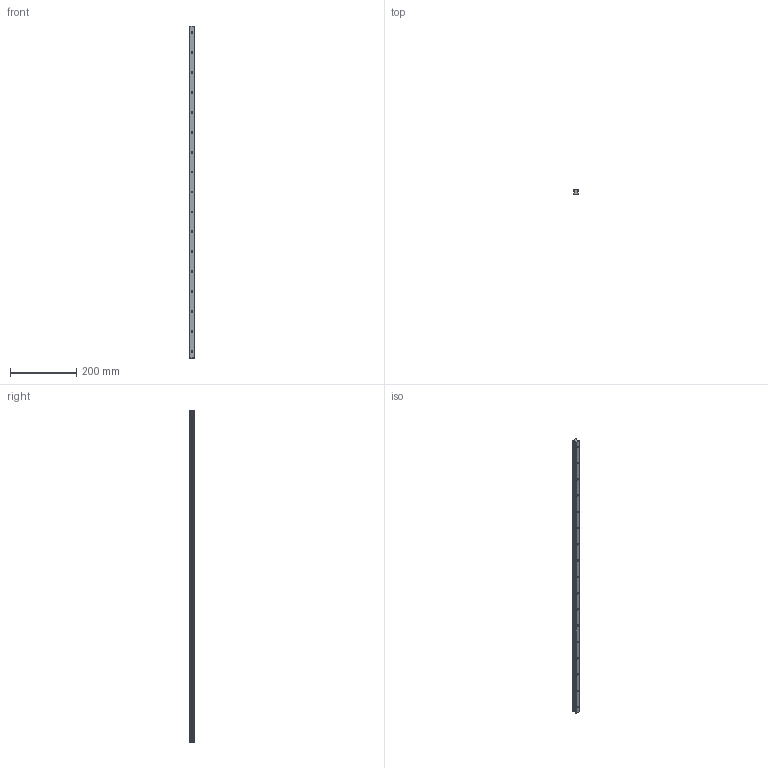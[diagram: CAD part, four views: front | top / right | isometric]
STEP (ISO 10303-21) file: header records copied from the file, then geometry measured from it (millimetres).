
FILE_DESCRIPTION(/* description */ (''),/* implementation_level */ '2;1');
FILE_NAME(/* name */ 'C:\Users\daviddillkoetter\ownCloud\Kamp und Kötter\Artikel\KPN_Profilführungen\Step\KPNR-15.stp',/* time_stamp */ '2021-01-27T11:18:34+01:00',/* author */ ('daviddillkoetter'),/* organization */ (''),/* preprocessor_version */ 'ST-DEVELOPER v18.1',/* originating_system */ 'Autodesk Inventor 2021',/* authorisation */ '');
FILE_SCHEMA (('AUTOMOTIVE_DESIGN { 1 0 10303 214 3 1 1 }'));
Length unit declared in the file: millimetre
Products named in the file (1): KPNR
Bounding box: 15 x 15 x 1000 mm (x, y, z)
Volume: 181031.6 mm3; surface area: 65950.4 mm2
Topology: 1 solids, 1 shells, 154 faces, 378 edges, 243 vertices
Faces by surface type: plane 61, cylinder 51, cone 42
Full cylindrical faces by diameter (mm): 4.5 x17, 7.5 x17
Entity records: 4766 total; most frequent: CARTESIAN_POINT 914, DIRECTION 831, ORIENTED_EDGE 756, EDGE_CURVE 378, AXIS2_PLACEMENT_3D 328, VERTEX_POINT 243, EDGE_LOOP 205, LINE 175
